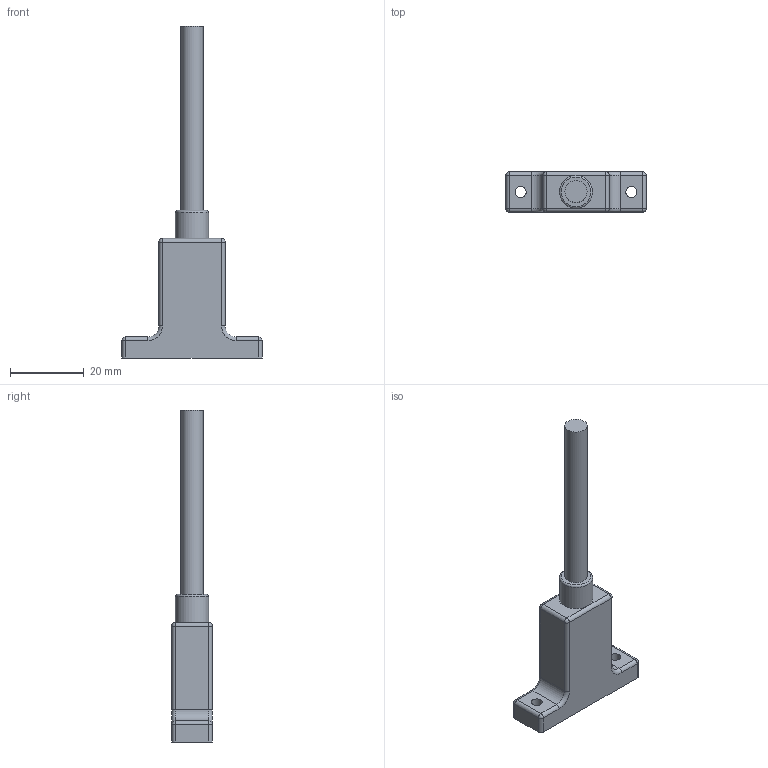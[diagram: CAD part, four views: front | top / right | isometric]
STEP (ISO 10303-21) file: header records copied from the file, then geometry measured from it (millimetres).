
FILE_DESCRIPTION(('FreeCAD Model'),'2;1');
FILE_NAME('Open CASCADE Shape Model','2026-06-05T14:04:55',(''),(''), 'Open CASCADE STEP processor 7.8','FreeCAD','Unknown');
FILE_SCHEMA(('AUTOMOTIVE_DESIGN { 1 0 10303 214 1 1 1 1 }'));
Length unit declared in the file: millimetre
Products named in the file (1): USB3-AMPAF-XXXX_F
Bounding box: 38 x 11 x 90 mm (x, y, z)
Volume: 9052 mm3; surface area: 4451.6 mm2
Topology: 1 solids, 1 shells, 72 faces, 174 edges, 99 vertices
Faces by surface type: cylinder 32, plane 27, sphere 8, torus 5
Full cylindrical faces by diameter (mm): 3 x2, 6 x1, 9 x1
Entity records: 2022 total; most frequent: DIRECTION 378, CARTESIAN_POINT 332, ORIENTED_EDGE 324, EDGE_CURVE 162, AXIS2_PLACEMENT_3D 143, VERTEX_POINT 97, LINE 92, VECTOR 92
